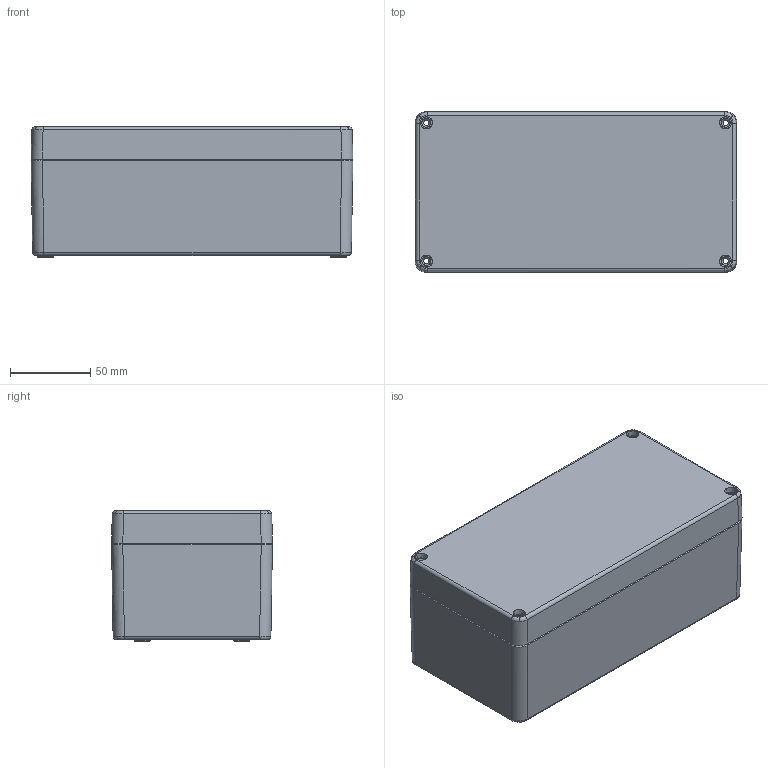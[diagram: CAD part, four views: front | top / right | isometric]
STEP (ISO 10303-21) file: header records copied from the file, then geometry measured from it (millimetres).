
FILE_DESCRIPTION (( 'STEP AP203' ), '1' );
FILE_NAME ('BB043.STEP', '2024-12-26T15:20:54', ( '' ), ( '' ), 'SwSTEP 2.0', 'SolidWorks 2019', '' );
FILE_SCHEMA (( 'CONFIG_CONTROL_DESIGN' ));
Length unit declared in the file: millimetre
Products named in the file (3): BB043; 01157_200x100x81_stp.stp; lid_200x100x81_stp.stp
Assembly tree (2 placements, depth 2):
  BB043
    01157_200x100x81_stp.stp
    lid_200x100x81_stp.stp
Bounding box: 200 x 100 x 81 mm (x, y, z)
Volume: 341833 mm3; surface area: 178703.9 mm2
Topology: 2 solids, 2 shells, 864 faces, 2172 edges, 1364 vertices
Faces by surface type: plane 347, cylinder 214, cone 178, bspline 73, torus 52
Entity records: 31375 total; most frequent: CARTESIAN_POINT 11420, ORIENTED_EDGE 4308, DIRECTION 3754, EDGE_CURVE 2154, AXIS2_PLACEMENT_3D 1379, VERTEX_POINT 1364, VECTOR 996, LINE 996
